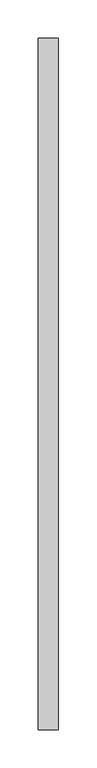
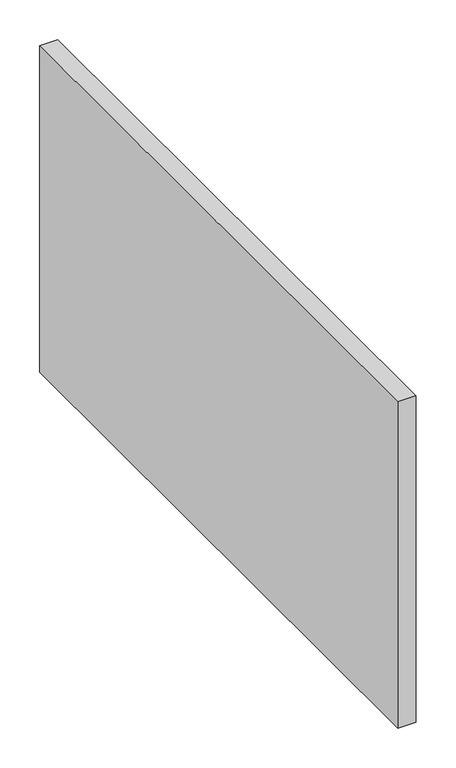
"""IFC4 building model written with IfcOpenShell, lengths in millimetres: duct fitting geometry, ADSK_ВрезкаВоздуховода_Прямоугольная : Стандарт."""

from ifc_helpers import new_model, si_unit, frame, origin, place, context, project, spatial, polyline, outline, extrude, source, transform, mapped, element, save


def duct_fitting_41c44c4c(model_context):
    return source(origin(), model_context, "Body", "SweptSolid", [
        extrude(outline(polyline([(-6.096, 450.0), (20.0, 450.0), (20.0, -450.0), (-6.096, -450.0), (-6.096, 450.0)])), frame((0.0, 0.0, -250.0), z_axis=(0.0, 0.0, 1.0), x_axis=(1.0, 0.0, 0.0)), (0.0, 0.0, 1.0), 500.0),
    ])


if __name__ == "__main__":
    model = new_model("IFC4")
    model_context = context("Model", 3, world=origin())
    ifc_project = project(units=[si_unit("LENGTHUNIT", "METRE", prefix="MILLI")], contexts=[model_context])
    site = spatial("IfcSite", under=ifc_project)
    building = spatial("IfcBuilding", under=site)
    placement = place(None, origin())
    duct_fitting_shape = duct_fitting_41c44c4c(model_context)
    element("IfcDuctFitting", 1, ObjectType="ADSK_ВрезкаВоздуховода_Прямоугольная : Стандарт", at=placement, inside=building, context=model_context, shape_type="MappedRepresentation", body=[
        mapped(duct_fitting_shape, transform((0.0, 0.0, 0.0), x_axis=(1.0, 0.0, 0.0), y_axis=(0.0, 1.0, 0.0), z_axis=(0.0, 0.0, 1.0))),
    ])
    save(model, "model.ifc")
